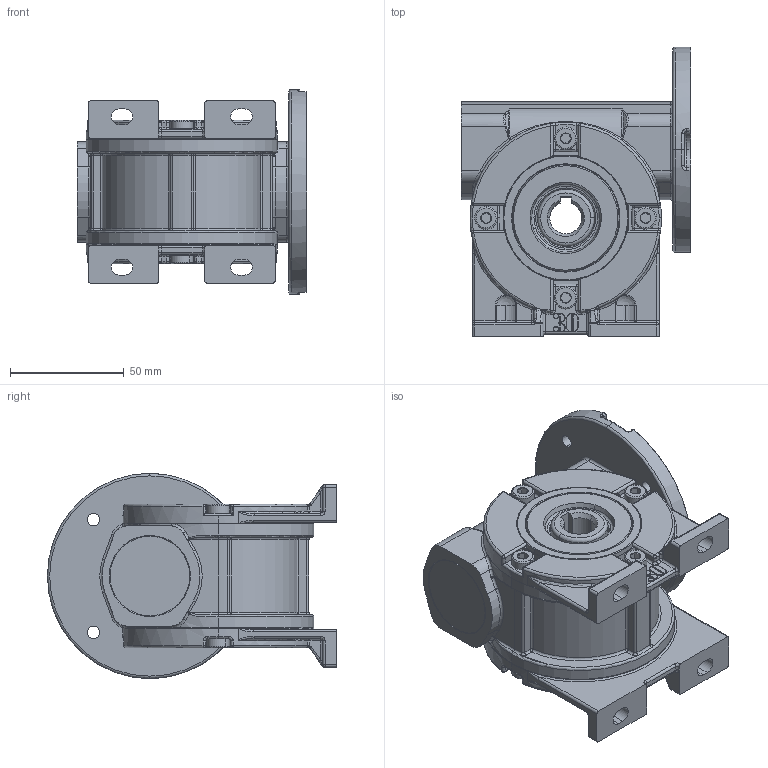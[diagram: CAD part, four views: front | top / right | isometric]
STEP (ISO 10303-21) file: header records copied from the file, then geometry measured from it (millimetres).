
FILE_DESCRIPTION (( 'STEP AP214' ), '1' );
FILE_NAME ('Sestava MRT30A-A.STEP', '2007-06-25T04:08:44', ( '' ), ( '' ), 'SwSTEP 2.0', 'SolidWorks 2004146', '' );
FILE_SCHEMA (( 'AUTOMOTIVE_DESIGN' ));
Length unit declared in the file: millimetre
Products named in the file (15): PATKA-ADA_Výchozí; CSN 024630_SKF 6005_Ložisko SKF 6005 ÈSN 024630; naboj_Výchozí; Snekove ozubeni 002LAM5B; Snekove ozubeni 002PILIB; CSN 022931_47_Kroužek 47 ÈSN 022931; DIN 3760-NB_AS 20x30x7_Tìsnìní AS 20x30x7 DIN 3760-NB; DIN 3760-NB_A 25x47x7_Tìsnìní A 25x47x7 DIN 3760-NB; CSN 024630_SKF 6300_Ložisko SKF 6300 ÈSN 024630; DIN 7984_M6x12_Šroub DIN 7984 - M6x12; vicko nbr 35_Výchozí; CSN 022931_35_Kroužek 35 ÈSN 022931; DIN 5405 - K20X26X17 - 18,SI,AC,18; Sestava MRT30A-A; skrin_30_63_Výchozí
Assembly tree (25 placements, depth 2):
  Sestava MRT30A-A
    CSN 024630_SKF 6300_Ložisko SKF 6300 ÈSN 024630
    DIN 5405 - K20X26X17 - 18,SI,AC,18
    naboj_Výchozí
    DIN 3760-NB_AS 20x30x7_Tìsnìní AS 20x30x7 DIN 3760-NB
    DIN 3760-NB_A 25x47x7_Tìsnìní A 25x47x7 DIN 3760-NB  x2
    Snekove ozubeni 002PILIB
    DIN 7984_M6x12_Šroub DIN 7984 - M6x12  x8
    vicko nbr 35_Výchozí
    CSN 022931_47_Kroužek 47 ÈSN 022931  x2
    CSN 024630_SKF 6005_Ložisko SKF 6005 ÈSN 024630  x2
    skrin_30_63_Výchozí
    PATKA-ADA_Výchozí  x2
    Snekove ozubeni 002LAM5B
    CSN 022931_35_Kroužek 35 ÈSN 022931
Bounding box: 101 x 127 x 90 mm (x, y, z)
Volume: 345033.6 mm3; surface area: 168656.7 mm2
Topology: 25 solids, 25 shells, 2251 faces, 5798 edges, 3452 vertices
Faces by surface type: cylinder 757, torus 455, plane 406, cone 310, bspline 191, sphere 132
Entity records: 98143 total; most frequent: CARTESIAN_POINT 60746, ORIENTED_EDGE 7850, DIRECTION 7426, EDGE_CURVE 3925, AXIS2_PLACEMENT_3D 3288, VERTEX_POINT 2417, CIRCLE 1833, EDGE_LOOP 1658
